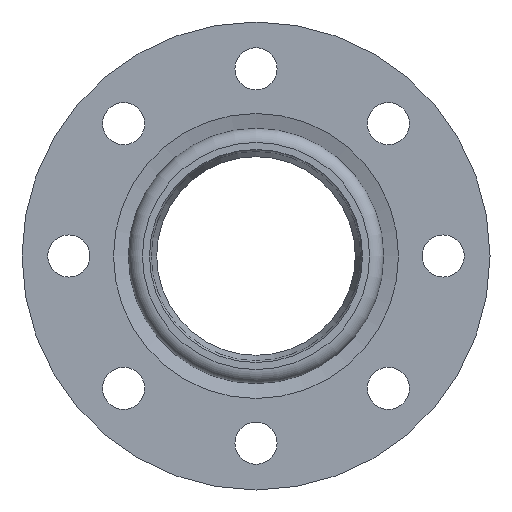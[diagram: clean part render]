
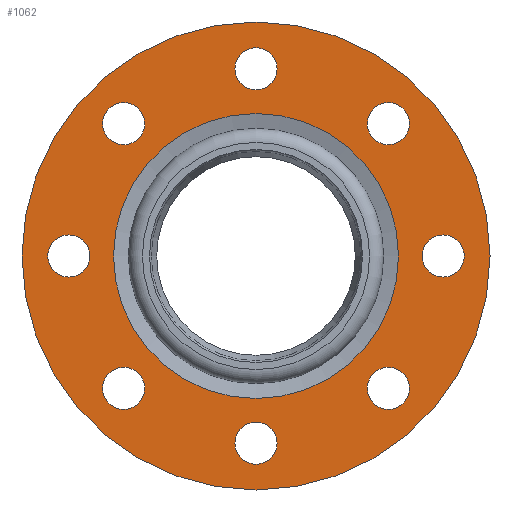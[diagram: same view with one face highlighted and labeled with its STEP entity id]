
A CAD part, left-side view. The second image highlights one B-rep face of the part: STEP entity #1062.
In plain terms, the highlighted planar face has unit normal (-1, 0, 0) as drawn and (0, 0, 1) by its records, which use the part's own axes.
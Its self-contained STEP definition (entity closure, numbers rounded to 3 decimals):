
#691=CARTESIAN_POINT('',(0.0,-60.907,0.0));
#692=VERTEX_POINT('',#691);
#693=CARTESIAN_POINT('',(0.0,0.0,0.0));
#694=DIRECTION('',(0.0,0.0,-1.0));
#695=DIRECTION('',(0.0,-1.0,0.0));
#696=AXIS2_PLACEMENT_3D('',#693,#694,#695);
#697=CIRCLE('',#696,60.907);
#698=EDGE_CURVE('',#692,#692,#697,.T.);
#791=CARTESIAN_POINT('',(9.,80.0,0.0));
#792=VERTEX_POINT('',#791);
#793=CARTESIAN_POINT('',(0.,80.0,0.0));
#794=DIRECTION('',(0.0,0.0,-1.0));
#795=DIRECTION('',(-1.0,0.0,0.0));
#796=AXIS2_PLACEMENT_3D('',#793,#794,#795);
#797=CIRCLE('',#796,9.0);
#798=EDGE_CURVE('',#792,#792,#797,.T.);
#819=CARTESIAN_POINT('',(65.569,56.569,0.0));
#820=VERTEX_POINT('',#819);
#821=CARTESIAN_POINT('',(56.569,56.569,0.0));
#822=DIRECTION('',(0.0,0.0,-1.0));
#823=DIRECTION('',(-1.0,0.0,0.0));
#824=AXIS2_PLACEMENT_3D('',#821,#822,#823);
#825=CIRCLE('',#824,9.0);
#826=EDGE_CURVE('',#820,#820,#825,.T.);
#847=CARTESIAN_POINT('',(89.0,0.,0.0));
#848=VERTEX_POINT('',#847);
#849=CARTESIAN_POINT('',(80.0,0.,0.0));
#850=DIRECTION('',(0.0,0.0,-1.0));
#851=DIRECTION('',(-1.0,0.0,0.0));
#852=AXIS2_PLACEMENT_3D('',#849,#850,#851);
#853=CIRCLE('',#852,9.0);
#854=EDGE_CURVE('',#848,#848,#853,.T.);
#875=CARTESIAN_POINT('',(65.569,-56.569,0.0));
#876=VERTEX_POINT('',#875);
#877=CARTESIAN_POINT('',(56.569,-56.569,0.0));
#878=DIRECTION('',(0.0,0.0,-1.0));
#879=DIRECTION('',(-1.0,0.0,0.0));
#880=AXIS2_PLACEMENT_3D('',#877,#878,#879);
#881=CIRCLE('',#880,9.0);
#882=EDGE_CURVE('',#876,#876,#881,.T.);
#903=CARTESIAN_POINT('',(9.,-80.0,0.0));
#904=VERTEX_POINT('',#903);
#905=CARTESIAN_POINT('',(0.,-80.0,0.0));
#906=DIRECTION('',(0.0,0.0,-1.0));
#907=DIRECTION('',(-1.0,0.0,0.0));
#908=AXIS2_PLACEMENT_3D('',#905,#906,#907);
#909=CIRCLE('',#908,9.0);
#910=EDGE_CURVE('',#904,#904,#909,.T.);
#931=CARTESIAN_POINT('',(-47.569,-56.569,0.0));
#932=VERTEX_POINT('',#931);
#933=CARTESIAN_POINT('',(-56.569,-56.569,0.0));
#934=DIRECTION('',(0.0,0.0,-1.0));
#935=DIRECTION('',(-1.0,0.0,0.0));
#936=AXIS2_PLACEMENT_3D('',#933,#934,#935);
#937=CIRCLE('',#936,9.0);
#938=EDGE_CURVE('',#932,#932,#937,.T.);
#959=CARTESIAN_POINT('',(-71.0,0.,0.0));
#960=VERTEX_POINT('',#959);
#961=CARTESIAN_POINT('',(-80.0,0.,0.0));
#962=DIRECTION('',(0.0,0.0,-1.0));
#963=DIRECTION('',(-1.0,0.0,0.0));
#964=AXIS2_PLACEMENT_3D('',#961,#962,#963);
#965=CIRCLE('',#964,9.0);
#966=EDGE_CURVE('',#960,#960,#965,.T.);
#987=CARTESIAN_POINT('',(-47.569,56.569,0.0));
#988=VERTEX_POINT('',#987);
#989=CARTESIAN_POINT('',(-56.569,56.569,0.0));
#990=DIRECTION('',(0.0,0.0,-1.0));
#991=DIRECTION('',(-1.0,0.0,0.0));
#992=AXIS2_PLACEMENT_3D('',#989,#990,#991);
#993=CIRCLE('',#992,9.0);
#994=EDGE_CURVE('',#988,#988,#993,.T.);
#1015=CARTESIAN_POINT('',(100.0,0.,0.0));
#1016=VERTEX_POINT('',#1015);
#1017=CARTESIAN_POINT('',(0.0,0.0,0.0));
#1018=DIRECTION('',(0.0,0.0,-1.0));
#1019=DIRECTION('',(-1.0,0.0,0.0));
#1020=AXIS2_PLACEMENT_3D('',#1017,#1018,#1019);
#1021=CIRCLE('',#1020,100.0);
#1022=EDGE_CURVE('',#1016,#1016,#1021,.T.);
#1027=CARTESIAN_POINT('',(0.0,0.0,0.0));
#1028=DIRECTION('',(0.0,0.0,-1.0));
#1029=DIRECTION('',(-1.0,0.0,0.0));
#1030=AXIS2_PLACEMENT_3D('',#1027,#1028,#1029);
#1031=PLANE('',#1030);
#1032=ORIENTED_EDGE('',*,*,#1022,.F.);
#1033=EDGE_LOOP('',(#1032));
#1034=FACE_OUTER_BOUND('',#1033,.T.);
#1035=ORIENTED_EDGE('',*,*,#698,.T.);
#1036=EDGE_LOOP('',(#1035));
#1037=FACE_BOUND('',#1036,.T.);
#1038=ORIENTED_EDGE('',*,*,#798,.T.);
#1039=EDGE_LOOP('',(#1038));
#1040=FACE_BOUND('',#1039,.T.);
#1041=ORIENTED_EDGE('',*,*,#826,.T.);
#1042=EDGE_LOOP('',(#1041));
#1043=FACE_BOUND('',#1042,.T.);
#1044=ORIENTED_EDGE('',*,*,#854,.T.);
#1045=EDGE_LOOP('',(#1044));
#1046=FACE_BOUND('',#1045,.T.);
#1047=ORIENTED_EDGE('',*,*,#882,.T.);
#1048=EDGE_LOOP('',(#1047));
#1049=FACE_BOUND('',#1048,.T.);
#1050=ORIENTED_EDGE('',*,*,#910,.T.);
#1051=EDGE_LOOP('',(#1050));
#1052=FACE_BOUND('',#1051,.T.);
#1053=ORIENTED_EDGE('',*,*,#938,.T.);
#1054=EDGE_LOOP('',(#1053));
#1055=FACE_BOUND('',#1054,.T.);
#1056=ORIENTED_EDGE('',*,*,#966,.T.);
#1057=EDGE_LOOP('',(#1056));
#1058=FACE_BOUND('',#1057,.T.);
#1059=ORIENTED_EDGE('',*,*,#994,.T.);
#1060=EDGE_LOOP('',(#1059));
#1061=FACE_BOUND('',#1060,.T.);
#1062=ADVANCED_FACE('',(#1034,#1037,#1040,#1043,#1046,#1049,#1052,#1055,#1058,#1061),#1031,.F.);
